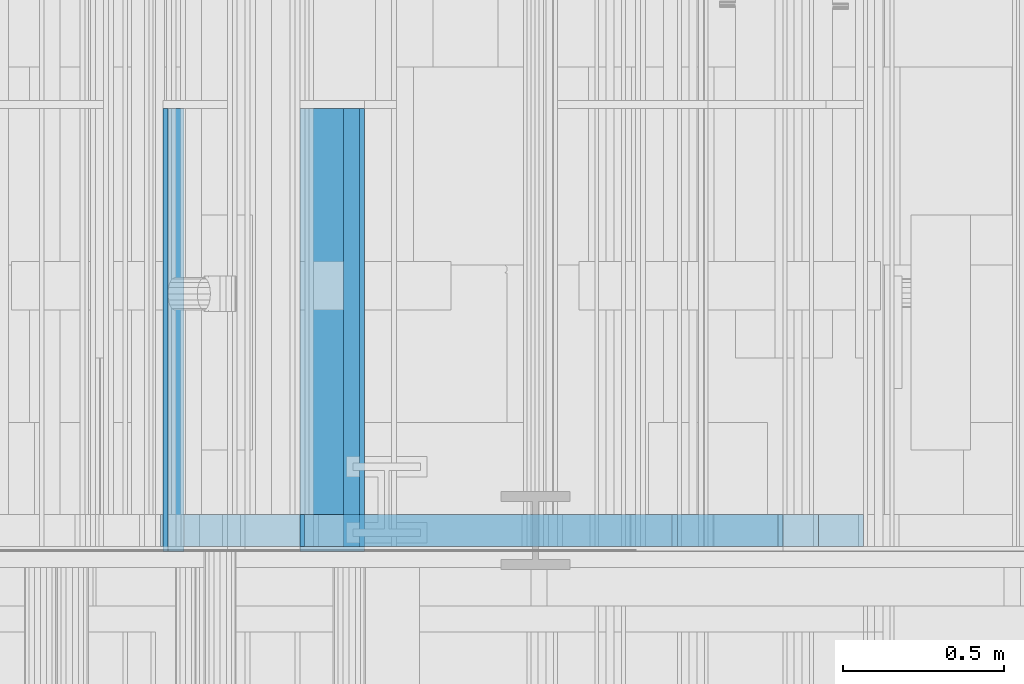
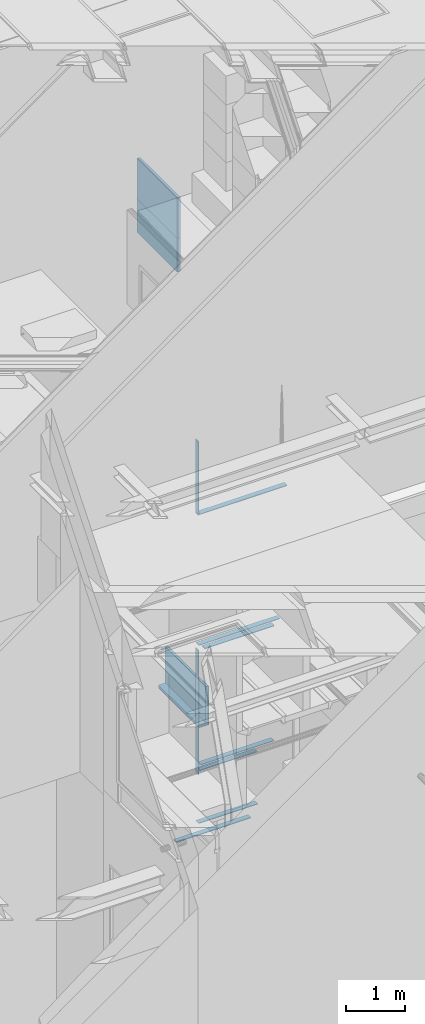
# One storey, part 105 of 583: 17 building element parts, 9 elements without a shape of their own.
"""IFC2X3 building model written with IfcOpenShell, lengths in metres."""

from ifc_helpers import new_model, entity, si_unit, converted_unit, derived_unit, money_unit, direction, frame, frame_2d, origin_with_axes, place, context, subcontext, project, spatial, polyline, rectangle, outline, extrude, material, type_object, element, aggregate, save


model = new_model("IFC2X3")

# Units and contexts
model_context = context("Model", 3, precision=1e-05, world=origin_with_axes(), true_north=direction((0.0, 1.0)))
body_context = subcontext(model_context, "Body", "Model", "MODEL_VIEW", scale=1.0)
ifc_project = project(units=[si_unit("LENGTHUNIT", "METRE"), si_unit("AREAUNIT", "SQUARE_METRE"), si_unit("VOLUMEUNIT", "CUBIC_METRE"), si_unit("ABSORBEDDOSEUNIT", "GRAY"), si_unit("AMOUNTOFSUBSTANCEUNIT", "MOLE"), si_unit("DOSEEQUIVALENTUNIT", "SIEVERT"), si_unit("ELECTRICCAPACITANCEUNIT", "FARAD"), si_unit("ELECTRICCHARGEUNIT", "COULOMB"), si_unit("ELECTRICCONDUCTANCEUNIT", "SIEMENS"), si_unit("ELECTRICCURRENTUNIT", "AMPERE"), si_unit("ELECTRICRESISTANCEUNIT", "OHM"), si_unit("ELECTRICVOLTAGEUNIT", "VOLT"), si_unit("ENERGYUNIT", "JOULE"), si_unit("FORCEUNIT", "NEWTON"), si_unit("FREQUENCYUNIT", "HERTZ"), si_unit("ILLUMINANCEUNIT", "LUX"), si_unit("INDUCTANCEUNIT", "HENRY"), si_unit("LUMINOUSFLUXUNIT", "LUMEN"), si_unit("LUMINOUSINTENSITYUNIT", "CANDELA"), si_unit("MAGNETICFLUXDENSITYUNIT", "TESLA"), si_unit("MAGNETICFLUXUNIT", "WEBER"), si_unit("MASSUNIT", "GRAM"), converted_unit("PLANEANGLEUNIT", "degree", entity("IfcReal", 0.0174532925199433), si_unit("PLANEANGLEUNIT", "RADIAN"), dimensions=[0, 0, 0, 0, 0, 0, 0]), si_unit("POWERUNIT", "WATT"), si_unit("PRESSUREUNIT", "PASCAL"), si_unit("RADIOACTIVITYUNIT", "BECQUEREL"), si_unit("SOLIDANGLEUNIT", "STERADIAN"), si_unit("THERMODYNAMICTEMPERATUREUNIT", "KELVIN"), si_unit("TIMEUNIT", "SECOND"), derived_unit("ACCELERATIONUNIT", [(si_unit("LENGTHUNIT", "METRE"), 1), (si_unit("TIMEUNIT", "SECOND"), -2)]), derived_unit("ANGULARVELOCITYUNIT", [(converted_unit("PLANEANGLEUNIT", "degree", entity("IfcReal", 0.0174532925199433), si_unit("PLANEANGLEUNIT", "RADIAN"), dimensions=[0, 0, 0, 0, 0, 0, 0]), 1), (si_unit("TIMEUNIT", "SECOND"), -1)]), derived_unit("CURVATUREUNIT", [(converted_unit("PLANEANGLEUNIT", "degree", entity("IfcReal", 0.0174532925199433), si_unit("PLANEANGLEUNIT", "RADIAN"), dimensions=[0, 0, 0, 0, 0, 0, 0]), 1), (si_unit("LENGTHUNIT", "METRE"), -1)]), derived_unit("DYNAMICVISCOSITYUNIT", [(si_unit("PRESSUREUNIT", "PASCAL"), 1), (si_unit("TIMEUNIT", "SECOND"), 1)]), derived_unit("HEATFLUXDENSITYUNIT", [(si_unit("POWERUNIT", "WATT"), 1), (si_unit("LENGTHUNIT", "METRE"), -2)]), derived_unit("HEATINGVALUEUNIT", [(si_unit("ENERGYUNIT", "JOULE"), 1), (si_unit("MASSUNIT", "GRAM"), -1)]), derived_unit("INTEGERCOUNTRATEUNIT", [(si_unit("TIMEUNIT", "SECOND"), -1)]), derived_unit("IONCONCENTRATIONUNIT", [(si_unit("MASSUNIT", "GRAM"), 1), (si_unit("VOLUMEUNIT", "CUBIC_METRE"), -1)]), derived_unit("ISOTHERMALMOISTURECAPACITYUNIT", [(si_unit("VOLUMEUNIT", "CUBIC_METRE"), 1), (si_unit("MASSUNIT", "GRAM"), -1)]), derived_unit("KINEMATICVISCOSITYUNIT", [(si_unit("AREAUNIT", "SQUARE_METRE"), 1), (si_unit("TIMEUNIT", "SECOND"), -1)]), derived_unit("LINEARFORCEUNIT", [(si_unit("FORCEUNIT", "NEWTON"), 1), (si_unit("LENGTHUNIT", "METRE"), -1)]), derived_unit("LINEARMOMENTUNIT", [(si_unit("FORCEUNIT", "NEWTON"), 1), (si_unit("LENGTHUNIT", "METRE"), -1)]), derived_unit("LINEARSTIFFNESSUNIT", [(si_unit("FORCEUNIT", "NEWTON"), 1), (si_unit("LENGTHUNIT", "METRE"), -1)]), derived_unit("LINEARVELOCITYUNIT", [(si_unit("LENGTHUNIT", "METRE"), 1), (si_unit("TIMEUNIT", "SECOND"), -1)]), derived_unit("LUMINOUSINTENSITYDISTRIBUTIONUNIT", [(si_unit("LUMINOUSINTENSITYUNIT", "CANDELA"), 1), (si_unit("LUMINOUSFLUXUNIT", "LUMEN"), -1)]), derived_unit("MASSDENSITYUNIT", [(si_unit("MASSUNIT", "GRAM"), 1), (si_unit("VOLUMEUNIT", "CUBIC_METRE"), -1)]), derived_unit("MASSFLOWRATEUNIT", [(si_unit("MASSUNIT", "GRAM"), 1), (si_unit("TIMEUNIT", "SECOND"), -1)]), derived_unit("MASSPERLENGTHUNIT", [(si_unit("MASSUNIT", "GRAM"), 1), (si_unit("LENGTHUNIT", "METRE"), -1)]), derived_unit("MODULUSOFELASTICITYUNIT", [(si_unit("FORCEUNIT", "NEWTON"), 1), (si_unit("AREAUNIT", "SQUARE_METRE"), -1)]), derived_unit("MODULUSOFLINEARSUBGRADEREACTIONUNIT", [(si_unit("FORCEUNIT", "NEWTON"), 1), (si_unit("LENGTHUNIT", "METRE"), -2)]), derived_unit("MODULUSOFROTATIONALSUBGRADEREACTIONUNIT", [(si_unit("FORCEUNIT", "NEWTON"), 1), (si_unit("LENGTHUNIT", "METRE"), 1)]), derived_unit("MODULUSOFSUBGRADEREACTIONUNIT", [(si_unit("FORCEUNIT", "NEWTON"), 1), (si_unit("VOLUMEUNIT", "CUBIC_METRE"), -1)]), derived_unit("MOISTUREDIFFUSIVITYUNIT", [(si_unit("VOLUMEUNIT", "CUBIC_METRE"), 1), (si_unit("TIMEUNIT", "SECOND"), -1)]), derived_unit("MOLECULARWEIGHTUNIT", [(si_unit("MASSUNIT", "GRAM"), 1), (si_unit("AMOUNTOFSUBSTANCEUNIT", "MOLE"), -1)]), derived_unit("PLANARFORCEUNIT", [(si_unit("FORCEUNIT", "NEWTON"), 1), (si_unit("LENGTHUNIT", "METRE"), -2)]), derived_unit("ROTATIONALFREQUENCYUNIT", [(si_unit("TIMEUNIT", "SECOND"), -1)]), derived_unit("ROTATIONALMASSUNIT", [(si_unit("MASSUNIT", "GRAM"), 1), (si_unit("LENGTHUNIT", "METRE"), 2)]), derived_unit("ROTATIONALSTIFFNESSUNIT", [(si_unit("FORCEUNIT", "NEWTON"), 1), (si_unit("LENGTHUNIT", "METRE"), 1), (converted_unit("PLANEANGLEUNIT", "degree", entity("IfcReal", 0.0174532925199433), si_unit("PLANEANGLEUNIT", "RADIAN"), dimensions=[0, 0, 0, 0, 0, 0, 0]), -1)]), derived_unit("SECTIONAREAINTEGRALUNIT", [(si_unit("LENGTHUNIT", "METRE"), 5)]), derived_unit("SECTIONMODULUSUNIT", [(si_unit("LENGTHUNIT", "METRE"), 3)]), derived_unit("SHEARMODULUSUNIT", [(si_unit("FORCEUNIT", "NEWTON"), 1), (si_unit("AREAUNIT", "SQUARE_METRE"), -1)]), derived_unit("SOUNDPOWERUNIT", [(si_unit("ENERGYUNIT", "JOULE"), 1), (si_unit("TIMEUNIT", "SECOND"), -1)]), derived_unit("SPECIFICHEATCAPACITYUNIT", [(si_unit("FORCEUNIT", "NEWTON"), 1), (si_unit("MASSUNIT", "GRAM"), -1), (si_unit("THERMODYNAMICTEMPERATUREUNIT", "KELVIN"), -1)]), derived_unit("TEMPERATUREGRADIENTUNIT", [(si_unit("THERMODYNAMICTEMPERATUREUNIT", "KELVIN"), 1), (si_unit("LENGTHUNIT", "METRE"), -1)]), derived_unit("THERMALADMITTANCEUNIT", [(si_unit("POWERUNIT", "WATT"), 1), (si_unit("AREAUNIT", "SQUARE_METRE"), -1), (si_unit("THERMODYNAMICTEMPERATUREUNIT", "KELVIN"), -1)]), derived_unit("THERMALCONDUCTANCEUNIT", [(si_unit("POWERUNIT", "WATT"), 1), (si_unit("LENGTHUNIT", "METRE"), -1), (si_unit("THERMODYNAMICTEMPERATUREUNIT", "KELVIN"), -1)]), derived_unit("THERMALEXPANSIONCOEFFICIENTUNIT", [(si_unit("THERMODYNAMICTEMPERATUREUNIT", "KELVIN"), -1)]), derived_unit("THERMALRESISTANCEUNIT", [(si_unit("AREAUNIT", "SQUARE_METRE"), 1), (si_unit("POWERUNIT", "WATT"), -1)]), derived_unit("THERMALTRANSMITTANCEUNIT", [(si_unit("POWERUNIT", "WATT"), 1), (si_unit("AREAUNIT", "SQUARE_METRE"), -1), (si_unit("THERMODYNAMICTEMPERATUREUNIT", "KELVIN"), -1)]), derived_unit("TORQUEUNIT", [(si_unit("FORCEUNIT", "NEWTON"), 1), (si_unit("LENGTHUNIT", "METRE"), 1)]), derived_unit("VAPORPERMEABILITYUNIT", [(si_unit("MASSUNIT", "GRAM"), 1), (si_unit("TIMEUNIT", "SECOND"), -1)]), derived_unit("VOLUMETRICFLOWRATEUNIT", [(si_unit("VOLUMEUNIT", "CUBIC_METRE"), 1), (si_unit("TIMEUNIT", "SECOND"), -1)]), derived_unit("WARPINGCONSTANTUNIT", [(si_unit("LENGTHUNIT", "METRE"), 6)]), derived_unit("WARPINGMOMENTUNIT", [(si_unit("FORCEUNIT", "NEWTON"), 1), (si_unit("LENGTHUNIT", "METRE"), 2)]), money_unit("GBP")], contexts=[model_context])

# Site, building, storey
site_placement = place(None, origin_with_axes())
site = spatial("IfcSite", under=ifc_project, at=site_placement, Name="Site", CompositionType="ELEMENT")
building_placement = place(site_placement, origin_with_axes())
building = spatial("IfcBuilding", under=site, at=building_placement, Name="Building01", CompositionType="ELEMENT")
storey_placement = place(building_placement, frame((0.0, 0.0, 20.78), z_axis=(0.0, 0.0, 1.0), x_axis=(1.0, 0.0, 0.0)))
storey = spatial("IfcBuildingStorey", under=building, at=storey_placement, Name="RL", CompositionType="ELEMENT", Elevation=20.78)

# Wall, building element parts
wall_type_1 = type_object("IfcWallType", Name="SHE_A-Walls_Type05a_Partition_95mm_tall", PredefinedType="NOTDEFINED")
wall_1_placement = place(storey_placement, frame((10.38, 8.64, -7.851415), z_axis=(0.0, 1.0, 0.0), x_axis=(-1.0, 0.0, 0.0)))
wall_1 = element("IfcWall", 1, at=wall_1_placement, inside=storey, type_object=wall_type_1, Name="5A", ObjectType="SHE_A-Walls_Type05a_Partition_95mm_tall")
ifc_material_1 = material(Name="A_BSUK_Walls_Timber")
placement_1 = place(wall_1_placement, origin_with_axes())
building_element_part_1 = element("IfcBuildingElementPart", 2, at=placement_1, material=ifc_material_1, Name="2", context=body_context, shape_type="SweptSolid", body=[
    extrude(outline(polyline([(1.545, 0.075), (-0.05, 0.075), (-0.035, 0.06), (1.545, 0.06), (1.545, 0.075)])), frame((0.0, 0.0, 0.015), z_axis=(0.0, 0.0, 1.0), x_axis=(1.0, 0.0, 0.0)), (0.0, 0.0, 1.0), 0.1),
])
building_element_part_2 = element("IfcBuildingElementPart", 3, at=placement_1, material=ifc_material_1, Name="3", context=body_context, shape_type="SweptSolid", body=[
    extrude(outline(polyline([(1.426872, -0.035), (0.06, -0.035), (0.075, -0.05), (1.426872, -0.05), (1.426872, -0.035)])), frame((0.0, 0.0, 0.015), z_axis=(0.0, 0.0, 1.0), x_axis=(1.0, 0.0, 0.0)), (0.0, 0.0, 1.0), 0.1),
])
aggregate(wall_1, [building_element_part_1, building_element_part_2])

# Wall, building element part
wall_type_2 = type_object("IfcWallType", Name="SHE_A-Walls_Type01c_Partywall_225mm_twin_tall", PredefinedType="NOTDEFINED")
wall_2_placement = place(storey_placement, frame((8.82, 8.64, -5.159868), z_axis=(0.0, 1.0, 0.0), x_axis=(1.0, 0.0, 0.0)))
wall_2 = element("IfcWall", 4, at=wall_2_placement, inside=storey, type_object=wall_type_2, Name="1C", ObjectType="SHE_A-Walls_Type01c_Partywall_225mm_twin_tall")
building_element_part_3_placement = place(wall_2_placement, origin_with_axes())
building_element_part_3 = element("IfcBuildingElementPart", 5, at=building_element_part_3_placement, material=ifc_material_1, Name="7", context=body_context, shape_type="SweptSolid", body=[
    extrude(rectangle(XDim=1.75, YDim=0.015, at=frame_2d((0.875, -0.0955), x_axis=(-1.0, 0.0))), frame((0.0, 0.0, 0.015), z_axis=(0.0, 0.0, 1.0), x_axis=(1.0, 0.0, 0.0)), (0.0, 0.0, 1.0), 0.1),
])
aggregate(wall_2, [building_element_part_3])

# Wall, building element parts
wall_type_3 = type_object("IfcWallType", Name="SHE_A-Walls_Type03a_BlockworkWall_170mm", PredefinedType="NOTDEFINED")
wall_3_placement = place(storey_placement, frame((8.805, 8.64, -2.795), z_axis=(0.0, 1.0, 0.0), x_axis=(0.0, 0.0, -1.0)))
wall_3 = element("IfcWall", 6, at=wall_3_placement, inside=storey, type_object=wall_type_3, Name="4B", ObjectType="SHE_A-Walls_Type03a_BlockworkWall_170mm")
placement_2 = place(wall_3_placement, origin_with_axes())
building_element_part_4 = element("IfcBuildingElementPart", 7, at=placement_2, material=ifc_material_1, Name="11", context=body_context, shape_type="SweptSolid", body=[
    extrude(rectangle(XDim=2.589714, YDim=0.015, at=frame_2d((6.386272, -0.0225), x_axis=(-1.0, 0.0))), frame((0.0, 0.0, 0.015), z_axis=(0.0, 0.0, 1.0), x_axis=(1.0, 0.0, 0.0)), (0.0, 0.0, 1.0), 0.1),
])
building_element_part_5 = element("IfcBuildingElementPart", 8, at=placement_2, material=ifc_material_1, Name="12", context=body_context, shape_type="SweptSolid", body=[
    extrude(rectangle(XDim=1.515, YDim=0.015, at=frame_2d((1.504368, -0.0225), x_axis=(-1.0, 0.0))), frame((0.0, 0.0, 0.015), z_axis=(0.0, 0.0, 1.0), x_axis=(1.0, 0.0, 0.0)), (0.0, 0.0, 1.0), 0.1),
])
aggregate(wall_3, [building_element_part_4, building_element_part_5])

wall_4_placement = place(storey_placement, frame((8.82, 8.64, -11.633), z_axis=(0.0, 1.0, 0.0), x_axis=(1.0, 0.0, 0.0)))
wall_4 = element("IfcWall", 9, at=wall_4_placement, inside=storey, type_object=wall_type_2, Name="1C", ObjectType="SHE_A-Walls_Type01c_Partywall_225mm_twin_tall")
placement_3 = place(wall_4_placement, origin_with_axes())
building_element_part_6 = element("IfcBuildingElementPart", 10, at=placement_3, material=ifc_material_1, Name="2", context=body_context, shape_type="SweptSolid", body=[
    extrude(outline(polyline([(1.027704, 0.102), (-0.432595, 0.102), (-0.432595, 0.087), (1.042704, 0.087), (1.027704, 0.102)])), frame((0.0, 0.0, 0.015), z_axis=(0.0, 0.0, 1.0), x_axis=(1.0, 0.0, 0.0)), (0.0, 0.0, 1.0), 0.1),
])
building_element_part_7 = element("IfcBuildingElementPart", 11, at=placement_3, material=ifc_material_1, Name="7", context=body_context, shape_type="SweptSolid", body=[
    extrude(rectangle(XDim=1.157704, YDim=0.015, at=frame_2d((0.593852, -0.1455), x_axis=(-1.0, 0.0))), frame((0.0, 0.0, 0.015), z_axis=(0.0, 0.0, 1.0), x_axis=(1.0, 0.0, 0.0)), (0.0, 0.0, 1.0), 0.1),
])
aggregate(wall_4, [building_element_part_6, building_element_part_7])

wall_type_4 = type_object("IfcWallType", Name="SHE_A-Walls_Type05c_PreWallShell_65mm", PredefinedType="NOTDEFINED")
wall_5_placement = place(storey_placement, frame((8.460003, 8.64, 0.846659), z_axis=(0.0, 1.0, 0.0), x_axis=(0.0, 0.0, -1.0)))
wall_5 = element("IfcWall", 12, at=wall_5_placement, inside=storey, type_object=wall_type_4, Name="5C", ObjectType="SHE_A-Walls_Type05c_PreWallShell_65mm")
ifc_material_2 = material(Name="A_BSUK_OpeningsClearance")
placement_4 = place(wall_5_placement, origin_with_axes())
building_element_part_8 = element("IfcBuildingElementPart", 13, at=placement_4, material=ifc_material_2, Name="1", context=body_context, shape_type="SweptSolid", body=[
    extrude(rectangle(XDim=0.703998, YDim=0.05, at=frame_2d((0.351999, 0.025), x_axis=(-1.0, 0.0))), origin_with_axes(), (0.0, 0.0, 1.0), 1.375),
])
building_element_part_9 = element("IfcBuildingElementPart", 14, at=placement_4, material=ifc_material_1, Name="2", context=body_context, shape_type="SweptSolid", body=[
    extrude(rectangle(XDim=0.703998, YDim=0.015, at=frame_2d((0.351999, 0.0575), x_axis=(1.0, 0.0))), origin_with_axes(), (0.0, 0.0, 1.0), 1.375),
])
aggregate(wall_5, [building_element_part_8, building_element_part_9])

wall_6_placement = place(storey_placement, frame((8.46, 8.64, 1.681661), z_axis=(0.0, 1.0, 0.0), x_axis=(0.0, 0.0, -1.0)))
wall_6 = element("IfcWall", 15, at=wall_6_placement, inside=storey, type_object=wall_type_4, Name="5C", ObjectType="SHE_A-Walls_Type05c_PreWallShell_65mm")
placement_5 = place(wall_6_placement, origin_with_axes())
building_element_part_10 = element("IfcBuildingElementPart", 16, at=placement_5, material=ifc_material_2, Name="1", context=body_context, shape_type="SweptSolid", body=[
    extrude(rectangle(XDim=0.05, YDim=0.835002, at=frame_2d((0.417501, 0.025), x_axis=(0.0, -1.0))), origin_with_axes(), (0.0, 0.0, 1.0), 1.375),
])
building_element_part_11 = element("IfcBuildingElementPart", 17, at=placement_5, material=ifc_material_1, Name="2", context=body_context, shape_type="SweptSolid", body=[
    extrude(rectangle(XDim=0.015, YDim=0.835002, at=frame_2d((0.417501, 0.0575), x_axis=(0.0, -1.0))), origin_with_axes(), (0.0, 0.0, 1.0), 1.375),
])
aggregate(wall_6, [building_element_part_10, building_element_part_11])

wall_7_placement = place(storey_placement, frame((8.954996, 8.64, -8.676129), z_axis=(0.0, 1.0, 0.0), x_axis=(0.0, 0.0, -1.0)))
wall_7 = element("IfcWall", 18, at=wall_7_placement, inside=storey, type_object=wall_type_4, Name="5C", ObjectType="SHE_A-Walls_Type05c_PreWallShell_65mm")
placement_6 = place(wall_7_placement, origin_with_axes())
building_element_part_12 = element("IfcBuildingElementPart", 19, at=placement_6, material=ifc_material_2, Name="1", context=body_context, shape_type="SweptSolid", body=[
    extrude(rectangle(XDim=0.749998, YDim=0.05, at=frame_2d((0.374999, -0.025), x_axis=(-1.0, 0.0))), origin_with_axes(), (0.0, 0.0, 1.0), 1.375),
])
building_element_part_13 = element("IfcBuildingElementPart", 20, at=placement_6, material=ifc_material_1, Name="2", context=body_context, shape_type="SweptSolid", body=[
    extrude(rectangle(XDim=0.784998, YDim=0.015, at=frame_2d((0.407499, -0.0575), x_axis=(-1.0, 0.0))), origin_with_axes(), (0.0, 0.0, 1.0), 1.375),
])
aggregate(wall_7, [building_element_part_12, building_element_part_13])

wall_8_placement = place(storey_placement, frame((8.82, 8.64, -9.426127), z_axis=(0.0, 1.0, 0.0), x_axis=(1.0, 0.0, 0.0)))
wall_8 = element("IfcWall", 21, at=wall_8_placement, inside=storey, type_object=wall_type_4, Name="5C", ObjectType="SHE_A-Walls_Type05c_PreWallShell_65mm")
placement_7 = place(wall_8_placement, origin_with_axes())
building_element_part_14 = element("IfcBuildingElementPart", 22, at=placement_7, material=ifc_material_2, Name="1", context=body_context, shape_type="SweptSolid", body=[
    extrude(rectangle(XDim=0.184996, YDim=0.05, at=frame_2d((0.092498, 0.025), x_axis=(-1.0, 0.0))), origin_with_axes(), (0.0, 0.0, 1.0), 1.375),
])
building_element_part_15 = element("IfcBuildingElementPart", 23, at=placement_7, material=ifc_material_1, Name="2", context=body_context, shape_type="SweptSolid", body=[
    extrude(rectangle(XDim=0.199996, YDim=0.015, at=frame_2d((0.099998, 0.0575), x_axis=(-1.0, 0.0))), origin_with_axes(), (0.0, 0.0, 1.0), 1.375),
])
aggregate(wall_8, [building_element_part_14, building_element_part_15])

wall_9_placement = place(storey_placement, frame((8.82, 8.64, -10.326129), z_axis=(0.0, 1.0, 0.0), x_axis=(1.0, 0.0, 0.0)))
wall_9 = element("IfcWall", 24, at=wall_9_placement, inside=storey, type_object=wall_type_1, Name="5A", ObjectType="SHE_A-Walls_Type05a_Partition_95mm_tall")
placement_8 = place(wall_9_placement, origin_with_axes())
building_element_part_16 = element("IfcBuildingElementPart", 25, at=placement_8, material=ifc_material_1, Name="2", context=body_context, shape_type="SweptSolid", body=[
    extrude(rectangle(XDim=0.015, YDim=1.138704, at=frame_2d((0.584352, 0.0675), x_axis=(0.0, -1.0))), frame((0.0, 0.0, 0.015), z_axis=(0.0, 0.0, 1.0), x_axis=(1.0, 0.0, 0.0)), (0.0, 0.0, 1.0), 0.1),
])
building_element_part_17 = element("IfcBuildingElementPart", 26, at=placement_8, material=ifc_material_1, Name="3", context=body_context, shape_type="SweptSolid", body=[
    extrude(outline(polyline([(1.5, -0.035), (0.0, -0.035), (0.0, -0.05), (1.485, -0.05), (1.5, -0.035)])), frame((0.0, 0.0, 0.015), z_axis=(0.0, 0.0, 1.0), x_axis=(1.0, 0.0, 0.0)), (0.0, 0.0, 1.0), 0.1),
])
aggregate(wall_9, [building_element_part_16, building_element_part_17])

save(model, "model.ifc")
